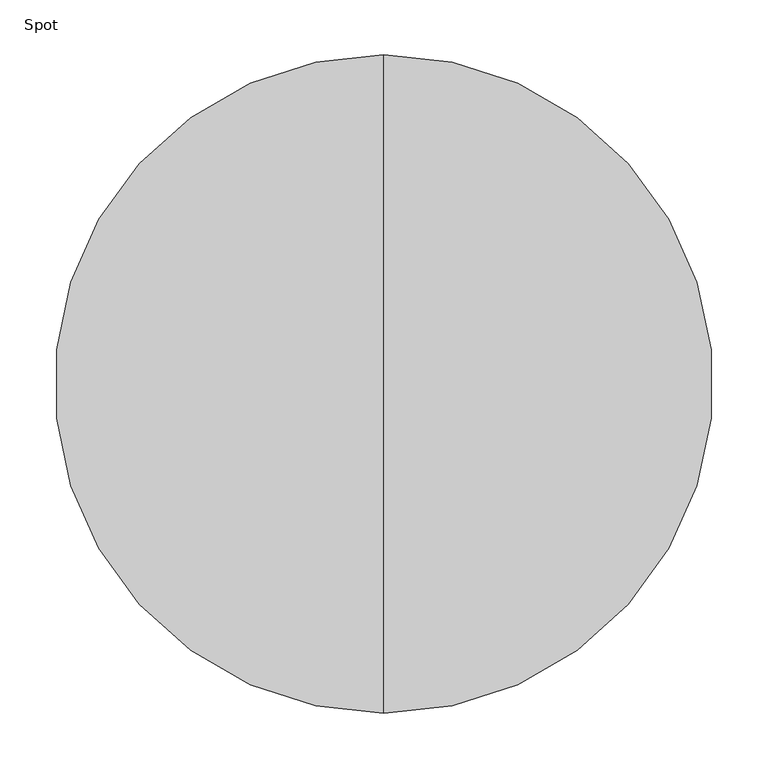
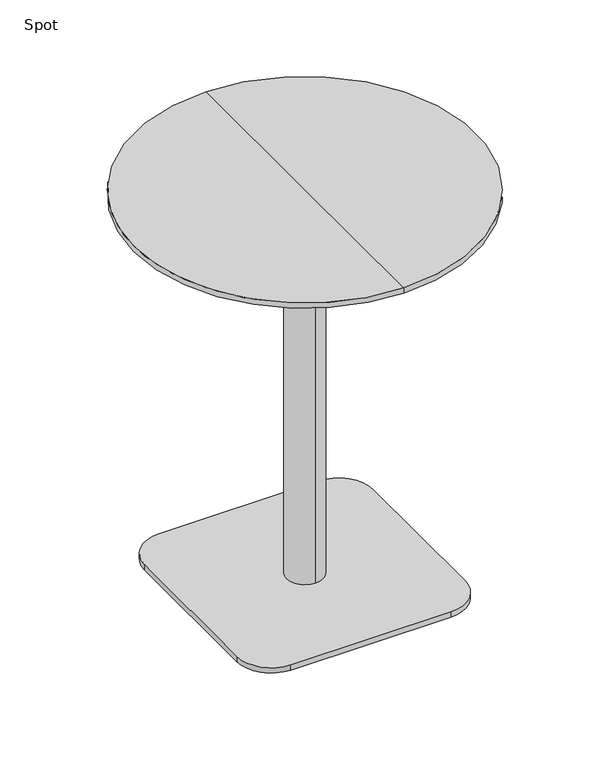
"""IFC4 building model written with IfcOpenShell, lengths in millimetres: furniture geometry, Spot : Bø60x72s."""

import ifcopenshell
import ifcopenshell.guid

model = None  # the IFC model being written
_history = None  # IfcOwnerHistory: only IFC2X3 demands one
_inside = {}  # id of a spatial element -> (the spatial element, [elements in it])
_under = {}  # id of a project, library or spatial element -> (it, [spatial elements below it])
_declared = {}  # id of a project -> (the project, [libraries it declares])
_typed = {}  # id of a type object -> (the type object, [elements of that type])
_made_of = {}  # id of a material, layer set ... -> (it, [elements and type objects made of it])


def new_model(schema):
    """Start an empty IFC model of exactly this schema.

    Asked for "IFC4X3", IfcOpenShell would pick the latest addendum, in which some entities
    have other attributes; the version numbers below select the first issue.
    IFC2X3 requires an IfcOwnerHistory on every rooted entity: one is made here for all.
    """
    global model, _history
    if schema == "IFC4X3":
        model = ifcopenshell.file(schema_version=(4, 3, 0, 0))
    else:
        model = ifcopenshell.file(schema=schema)
    _inside.clear()
    _under.clear()
    _declared.clear()
    _typed.clear()
    _made_of.clear()
    _history = None
    if model.schema == "IFC2X3":
        org = make("IfcOrganization", Name="unknown")
        user = make(
            "IfcPersonAndOrganization",
            ThePerson=make("IfcPerson", FamilyName="unknown"),
            TheOrganization=org,
        )
        app = make(
            "IfcApplication",
            ApplicationDeveloper=org,
            Version="unknown",
            ApplicationFullName="unknown",
            ApplicationIdentifier="unknown",
        )
        _history = make(
            "IfcOwnerHistory",
            OwningUser=user,
            OwningApplication=app,
            ChangeAction="ADDED",
            CreationDate=0,
        )
    return model


def make(cls, **values):
    """One entity of the class cls with the attributes given. An attribute that is None is left unset."""
    return model.create_entity(
        cls, **{name: value for name, value in values.items() if value is not None}
    )


def rooted(cls, **values):
    """An entity with a GlobalId (a new one), such as an element, a storey or a relation."""
    return make(cls, GlobalId=ifcopenshell.guid.new(), OwnerHistory=_history, **values)


def si_unit(unit_type, name, prefix=None):
    """IfcSIUnit, for example si_unit("LENGTHUNIT", "METRE", prefix="MILLI")."""
    return make("IfcSIUnit", UnitType=unit_type, Prefix=prefix, Name=name)


def assignment(units):
    """IfcUnitAssignment: the units of a project."""
    return None if units is None else make("IfcUnitAssignment", Units=units)


def point(xyz):
    """IfcCartesianPoint."""
    return None if xyz is None else make("IfcCartesianPoint", Coordinates=xyz)


def direction(xyz):
    """IfcDirection."""
    return None if xyz is None else make("IfcDirection", DirectionRatios=xyz)


def frame(location, z_axis=None, x_axis=None):
    """IfcAxis2Placement3D, a coordinate frame: its origin and axes. An axis left out is left unset."""
    return make(
        "IfcAxis2Placement3D",
        Location=point(location),
        Axis=direction(z_axis),
        RefDirection=direction(x_axis),
    )


def frame_2d(location, x_axis=None):
    """IfcAxis2Placement2D, a coordinate frame in the plane: its origin and x axis."""
    return make(
        "IfcAxis2Placement2D", Location=point(location), RefDirection=direction(x_axis)
    )


def origin():
    """The frame at (0, 0, 0) with its axes left unset."""
    return frame((0.0, 0.0, 0.0))


def origin_with_axes():
    """The frame at (0, 0, 0) with the z axis (0, 0, 1) and the x axis (1, 0, 0) written out."""
    return frame((0.0, 0.0, 0.0), z_axis=(0.0, 0.0, 1.0), x_axis=(1.0, 0.0, 0.0))


def place(relative_to, where):
    """IfcLocalPlacement: puts the frame where relative to a parent placement (None: the world)."""
    return make(
        "IfcLocalPlacement", PlacementRelTo=relative_to, RelativePlacement=where
    )


def context(
    kind, dimensions, precision=None, world=None, true_north=None, identifier=None
):
    """IfcGeometricRepresentationContext, for example the 3D "Model" context."""
    return make(
        "IfcGeometricRepresentationContext",
        ContextIdentifier=identifier,
        ContextType=kind,
        CoordinateSpaceDimension=dimensions,
        Precision=precision,
        WorldCoordinateSystem=world,
        TrueNorth=true_north,
    )


def project(units=None, contexts=None):
    """IfcProject with its units and contexts."""
    return rooted(
        "IfcProject",
        Name="project",
        RepresentationContexts=contexts,
        UnitsInContext=assignment(units),
    )


def spatial(cls, under=None, at=None, **own):
    """A site, building, storey or space (cls), placed at a placement, below another one or the project."""
    s = rooted(cls, ObjectPlacement=at, **own)
    if under is not None:
        _under.setdefault(under.id(), (under, []))[1].append(s)
    return s


def polyline(points):
    """IfcPolyline through the points."""
    return make("IfcPolyline", Points=[point(p) for p in points])


def circle_curve(where, radius):
    """IfcCircle in the frame where."""
    return make("IfcCircle", Position=where, Radius=radius)


def trimmed(basis, trim1, trim2, sense, master):
    """IfcTrimmedCurve: the piece of a basis curve between two trims."""
    return make(
        "IfcTrimmedCurve",
        BasisCurve=basis,
        Trim1=trim1,
        Trim2=trim2,
        SenseAgreement=sense,
        MasterRepresentation=master,
    )


def segment(curve, same_sense, transition):
    """IfcCompositeCurveSegment."""
    return make(
        "IfcCompositeCurveSegment",
        Transition=transition,
        SameSense=same_sense,
        ParentCurve=curve,
    )


def composite_curve(segments, self_intersect=None):
    """IfcCompositeCurve: segments joined end to end."""
    return make("IfcCompositeCurve", Segments=segments, SelfIntersect=self_intersect)


def outline(outer, holes=None, kind="AREA"):
    """IfcArbitraryClosedProfileDef: a profile drawn as a closed curve; with holes, ...WithVoids."""
    if holes is None:
        return make("IfcArbitraryClosedProfileDef", ProfileType=kind, OuterCurve=outer)
    return make(
        "IfcArbitraryProfileDefWithVoids",
        ProfileType=kind,
        OuterCurve=outer,
        InnerCurves=holes,
    )


def extrude(swept, where, along, depth):
    """IfcExtrudedAreaSolid: the profile swept, set in the frame where, extruded along a direction by depth."""
    return make(
        "IfcExtrudedAreaSolid",
        SweptArea=swept,
        Position=where,
        ExtrudedDirection=direction(along),
        Depth=depth,
    )


def shape(context_of_items, identifier, shape_type, items):
    """IfcShapeRepresentation: the items that make up one representation, for example the "Body"."""
    return make(
        "IfcShapeRepresentation",
        ContextOfItems=context_of_items,
        RepresentationIdentifier=identifier,
        RepresentationType=shape_type,
        Items=items,
    )


def source(mapping_origin, context_of_items, identifier, shape_type, items):
    """IfcRepresentationMap: a shape defined once, which mapped items show again and again."""
    return make(
        "IfcRepresentationMap",
        MappingOrigin=mapping_origin,
        MappedRepresentation=shape(context_of_items, identifier, shape_type, items),
    )


def transform(
    local_origin,
    x_axis=None,
    y_axis=None,
    z_axis=None,
    scale=None,
    scale2=None,
    scale3=None,
    uniform=True,
):
    """IfcCartesianTransformationOperator3D, or its non-uniform kind. x_axis, y_axis, z_axis: its Axis1, 2, 3."""
    if uniform:
        return make(
            "IfcCartesianTransformationOperator3D",
            Axis1=direction(x_axis),
            Axis2=direction(y_axis),
            LocalOrigin=point(local_origin),
            Scale=scale,
            Axis3=direction(z_axis),
        )
    return make(
        "IfcCartesianTransformationOperator3DnonUniform",
        Axis1=direction(x_axis),
        Axis2=direction(y_axis),
        LocalOrigin=point(local_origin),
        Scale=scale,
        Axis3=direction(z_axis),
        Scale2=scale2,
        Scale3=scale3,
    )


def mapped(mapping_source, mapping_target):
    """IfcMappedItem: shows the shape of a source again, moved by a transform."""
    return make(
        "IfcMappedItem", MappingSource=mapping_source, MappingTarget=mapping_target
    )


def made_of(thing, what):
    """Note that an element or type object is made of a material, layer set ...; save() writes the relation."""
    if what is not None:
        _made_of.setdefault(what.id(), (what, []))[1].append(thing)
    return thing


def element(
    cls,
    number,
    at=None,
    inside=None,
    cuts=None,
    type_object=None,
    material=None,
    context=None,
    identifier="Body",
    shape_type=None,
    held_by="IfcProductDefinitionShape",
    body=None,
    shapes=None,
    **own,
):
    """One element of the class cls, such as IfcWall. Its Tag is "e" and its number.

    at: its placement. inside: the storey or other place that contains it. cuts: it is an
    opening in that element (IfcRelVoidsElement). A single representation is given by context,
    identifier, shape_type and body (its items); several are given by shapes. held_by: the class
    of the entity that holds the representations. save() writes the other relations.
    """
    e = rooted(cls, Tag="e%d" % number, ObjectPlacement=at, **own)
    if body is not None:
        shapes = [shape(context, identifier, shape_type, body)]
    if shapes is not None:
        e.Representation = make(held_by, Representations=shapes)
    if inside is not None:
        _inside.setdefault(inside.id(), (inside, []))[1].append(e)
    if cuts is not None:
        rooted(
            "IfcRelVoidsElement", RelatingBuildingElement=cuts, RelatedOpeningElement=e
        )
    if type_object is not None:
        _typed.setdefault(type_object.id(), (type_object, []))[1].append(e)
    return made_of(e, material)


def aggregate(whole, parts):
    """IfcRelAggregates: a whole, such as a stair, and the parts it consists of."""
    return rooted("IfcRelAggregates", RelatingObject=whole, RelatedObjects=parts)


def save(model, path):
    """Write the relations noted so far, then the file.

    IfcRelAggregates (storeys below a building ...), IfcRelContainedInSpatialStructure (elements
    in a storey), IfcRelDefinesByType, IfcRelAssociatesMaterial and IfcRelDeclares: one each for
    every whole, place, type object, material and project.
    """
    for whole, parts in _under.values():
        aggregate(whole, parts)
    for where, things in _inside.values():
        rooted(
            "IfcRelContainedInSpatialStructure",
            RelatedElements=things,
            RelatingStructure=where,
        )
    for kind, things in _typed.values():
        rooted("IfcRelDefinesByType", RelatedObjects=things, RelatingType=kind)
    for what, things in _made_of.values():
        rooted("IfcRelAssociatesMaterial", RelatedObjects=things, RelatingMaterial=what)
    for by, libraries in _declared.values():
        rooted("IfcRelDeclares", RelatingContext=by, RelatedDefinitions=libraries)
    model.write(path)


def plane_surface(at):
    """IfcPlane: the flat surface through the origin of the frame at, square to its z axis."""
    return make("IfcPlane", Position=at)


def cylinder_surface(at, radius):
    """IfcCylindricalSurface: all points at the distance radius from the z axis of the frame at."""
    return make("IfcCylindricalSurface", Position=at, Radius=radius)


def revolved_surface(curve, axis_point, axis_direction):
    """IfcSurfaceOfRevolution: the curve turned about the line through axis_point along axis_direction."""
    return make(
        "IfcSurfaceOfRevolution",
        SweptCurve=make("IfcArbitraryOpenProfileDef", ProfileType="CURVE", Curve=curve),
        AxisPosition=make("IfcAxis1Placement", Location=point(axis_point), Axis=direction(axis_direction)),
    )


def advanced_brep(points, edges, surfaces, faces):
    """IfcAdvancedBrep: a solid bounded by faces that lie on surfaces and meet in shared edges.

    An edge is (start, end): straight between two places in points (the first is 0);
    or (start, end, curve); or (start, end, curve, False) where it runs against its curve.
    A face is (place in surfaces, loops), or (place, loops, False) where it looks against
    its surface's normal. A loop lists edges by number (the first is 1), with a minus sign
    where the edge is run from its end to its start. The first loop is the outer one.
    """
    corners = [point(p) for p in points]
    vertices = [make("IfcVertexPoint", VertexGeometry=c) for c in corners]
    made = []
    for start, end, *more in edges:
        made.append(
            make(
                "IfcEdgeCurve",
                EdgeStart=vertices[start],
                EdgeEnd=vertices[end],
                EdgeGeometry=more[0] if more else make("IfcPolyline", Points=[corners[start], corners[end]]),
                SameSense=more[1] if len(more) > 1 else True,
            )
        )
    hull = []
    for where, loops, *sense in faces:
        bounds = []
        for j, loop in enumerate(loops):
            ring = [make("IfcOrientedEdge", EdgeElement=made[abs(k) - 1], Orientation=k > 0) for k in loop]
            bounds.append(
                make(
                    "IfcFaceOuterBound" if j == 0 else "IfcFaceBound",
                    Bound=make("IfcEdgeLoop", EdgeList=ring),
                    Orientation=True,
                )
            )
        hull.append(make("IfcAdvancedFace", Bounds=bounds, FaceSurface=surfaces[where], SameSense=sense[0] if sense else True))
    return make("IfcAdvancedBrep", Outer=make("IfcClosedShell", CfsFaces=hull))


def spot_044e7cc1(model_context):
    return source(origin(), model_context, "Body", "SolidModel", [
        advanced_brep(
        [(0.0, -300.0, 720.0), (0.0, 300.0, 720.0), (0.0, 0.0, 720.0), (0.0, 300.0, 710.25), (0.0, -300.0, 710.25), (0.0, 0.0, 698.0), (0.0, -254.2823776, 698.0), (0.0, 254.2823776, 698.0)],
        [
            (0, 1, circle_curve(frame((0.0, 0.0, 720.0), z_axis=(0.0, 0.0, 1.0), x_axis=(0.0, -1.0, 0.0)), 300.0)),
            (1, 2),
            (2, 0),
            (3, 4, circle_curve(frame((0.0, 0.0, 710.25), z_axis=(0.0, 0.0, 1.0), x_axis=(0.0, -1.0, 0.0)), 300.0)),
            (4, 0),
            (0, 1, circle_curve(frame((0.0, 0.0, 720.0), z_axis=(0.0, 0.0, -1.0), x_axis=(0.0, -1.0, 0.0)), 300.0)),
            (1, 3),
            (5, 6),
            (6, 7, circle_curve(frame((0.0, 0.0, 698.0), z_axis=(0.0, 0.0, -1.0), x_axis=(0.0, -1.0, 0.0)), 254.2823776)),
            (7, 5),
            (7, 6, circle_curve(frame((0.0, 0.0, 698.0), z_axis=(0.0, 0.0, -1.0), x_axis=(0.0, -1.0, 0.0)), 254.2823776)),
            (4, 3, circle_curve(frame((0.0, 0.0, 710.25), z_axis=(0.0, 0.0, 1.0), x_axis=(0.0, -1.0, 0.0)), 300.0)),
            (6, 4),
            (3, 7),
        ],
        [
            plane_surface(frame((0.0, 0.0, 720.0), z_axis=(0.0, 0.0, 1.0), x_axis=(0.0, -1.0, 0.0))),
            cylinder_surface(frame((0.0, 0.0, 800.0), z_axis=(0.0, 0.0, -1.0), x_axis=(0.0, -1.0, 0.0)), 300.0),
            plane_surface(frame((0.0, 0.0, 698.0), z_axis=(0.0, 0.0, -1.0), x_axis=(0.0, -1.0, 0.0))),
            revolved_surface(polyline([(0.0, -300.0, 710.25), (0.0, -254.2823776, 698.0)]), (0.0, 0.0, 800.0), (0.0, 0.0, -1.0)),
        ],
        [
            (0, [[1, 2, 3]]),
            (1, [[4, 5, 6, 7]]),
            (2, [[8, 9, 10]]),
            (2, [[-10, 11, -8]]),
            (0, [[-6, -3, -2]]),
            (1, [[12, -7, -1, -5]]),
            (3, [[-9, 13, -4, 14]]),
            (3, [[-11, -14, -12, -13]]),
        ],
    ),
        extrude(outline(composite_curve([segment(trimmed(circle_curve(frame_2d((140.0, 140.0)), 60.0), [point((140.0, 200.0))], [point((200.0, 140.0))], False, "CARTESIAN"), True, "CONTINUOUS"), segment(polyline([(200.0, 140.0), (200.0, -140.0)]), True, "CONTINUOUS"), segment(trimmed(circle_curve(frame_2d((140.0, -140.0)), 60.0), [point((200.0, -140.0))], [point((140.0, -200.0))], False, "CARTESIAN"), True, "CONTINUOUS"), segment(polyline([(140.0, -200.0), (-140.0, -200.0)]), True, "CONTINUOUS"), segment(trimmed(circle_curve(frame_2d((-140.0, -140.0)), 60.0), [point((-140.0, -200.0))], [point((-200.0, -140.0))], False, "CARTESIAN"), True, "CONTINUOUS"), segment(polyline([(-200.0, -140.0), (-200.0, 140.0)]), True, "CONTINUOUS"), segment(trimmed(circle_curve(frame_2d((-140.0, 140.0)), 60.0), [point((-200.0, 140.0))], [point((-140.0, 200.0))], False, "CARTESIAN"), True, "CONTINUOUS"), segment(polyline([(-140.0, 200.0), (140.0, 200.0)]), True, "CONTINUOUS")], self_intersect=False)), origin_with_axes(), (0.0, 0.0, 1.0), 10.0),
        advanced_brep(
        [(0.0, 32.0, 10.0), (0.0, -32.0, 10.0), (0.0, -32.0, 667.406916), (0.0, 32.0, 667.406916), (0.0, 0.0, 10.0), (0.0, 150.0, 698.0), (0.0, -150.0, 698.0), (0.0, 0.0, 698.0), (0.0, 150.0, 686.7213673), (0.0, -150.0, 686.7213673)],
        [
            (0, 1, circle_curve(frame((0.0, 0.0, 10.0), z_axis=(0.0, 0.0, 1.0), x_axis=(0.0, -1.0, 0.0)), 32.0)),
            (1, 2),
            (2, 3, circle_curve(frame((0.0, 0.0, 667.406916), z_axis=(0.0, 0.0, -1.0), x_axis=(0.0, -1.0, 0.0)), 32.0)),
            (3, 0),
            (1, 0, circle_curve(frame((0.0, 0.0, 10.0), z_axis=(0.0, 0.0, 1.0), x_axis=(0.0, -1.0, 0.0)), 32.0)),
            (3, 2, circle_curve(frame((0.0, 0.0, 667.406916), z_axis=(0.0, 0.0, -1.0), x_axis=(0.0, -1.0, 0.0)), 32.0)),
            (4, 1),
            (0, 4),
            (5, 6, circle_curve(frame((0.0, 0.0, 698.0), z_axis=(0.0, 0.0, 1.0), x_axis=(0.0, -1.0, 0.0)), 150.0)),
            (6, 7),
            (7, 5),
            (6, 5, circle_curve(frame((0.0, 0.0, 698.0), z_axis=(0.0, 0.0, 1.0), x_axis=(0.0, -1.0, 0.0)), 150.0)),
            (8, 9, circle_curve(frame((0.0, 0.0, 686.7213673), z_axis=(0.0, 0.0, 1.0), x_axis=(0.0, -1.0, 0.0)), 150.0)),
            (9, 6),
            (5, 8),
            (9, 8, circle_curve(frame((0.0, 0.0, 686.7213673), z_axis=(0.0, 0.0, 1.0), x_axis=(0.0, -1.0, 0.0)), 150.0)),
            (2, 9),
            (8, 3),
        ],
        [
            cylinder_surface(frame((0.0, 0.0, 1060.0), z_axis=(0.0, 0.0, -1.0), x_axis=(0.0, -1.0, 0.0)), 32.0),
            plane_surface(frame((0.0, 0.0, 10.0), z_axis=(0.0, 0.0, -1.0), x_axis=(0.0, -1.0, 0.0))),
            plane_surface(frame((0.0, 0.0, 698.0), z_axis=(0.0, 0.0, 1.0), x_axis=(0.0, -1.0, 0.0))),
            cylinder_surface(frame((0.0, 0.0, 1060.0), z_axis=(0.0, 0.0, -1.0), x_axis=(0.0, -1.0, 0.0)), 150.0),
            revolved_surface(polyline([(0.0, -150.0, 686.7213673), (0.0, -32.0, 667.406916)]), (0.0, 0.0, 1060.0), (0.0, 0.0, -1.0)),
        ],
        [
            (0, [[1, 2, 3, 4]]),
            (0, [[5, -4, 6, -2]]),
            (1, [[7, -1, 8]]),
            (1, [[-8, -5, -7]]),
            (2, [[9, 10, 11]]),
            (2, [[12, -11, -10]]),
            (3, [[13, 14, -9, 15]]),
            (3, [[16, -15, -12, -14]]),
            (4, [[-3, 17, -13, 18]]),
            (4, [[-6, -18, -16, -17]]),
        ],
    ),
        extrude(outline(polyline([(0.0, 0.0), (-20.0, 0.0), (-20.0, 20.0), (0.0, 20.0), (0.0, 0.0)])), origin_with_axes(), (0.0, 0.0, 1.0), 10.0),
    ])


if __name__ == "__main__":
    model = new_model("IFC4")
    model_context = context("Model", 3, world=origin())
    ifc_project = project(units=[si_unit("LENGTHUNIT", "METRE", prefix="MILLI")], contexts=[model_context])
    site = spatial("IfcSite", under=ifc_project)
    building = spatial("IfcBuilding", under=site)
    placement = place(None, origin())
    spot_shape = spot_044e7cc1(model_context)
    element("IfcFurniture", 1, ObjectType="Spot : Bø60x72s", at=placement, inside=building, context=model_context, shape_type="MappedRepresentation", body=[
        mapped(spot_shape, transform((0.0, 0.0, 0.0), x_axis=(1.0, 0.0, 0.0), y_axis=(0.0, 1.0, 0.0), z_axis=(0.0, 0.0, 1.0))),
    ])
    save(model, "model.ifc")
